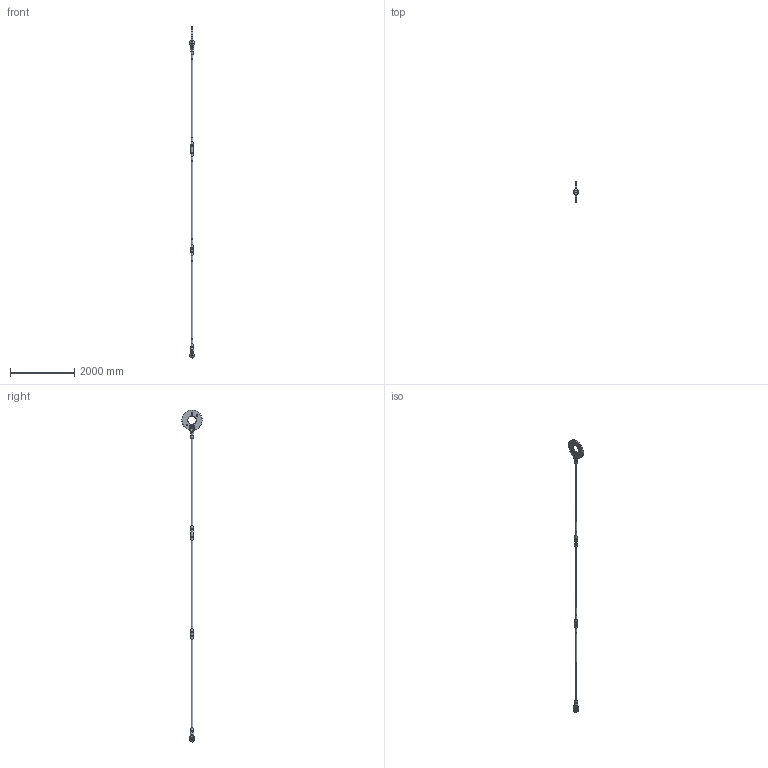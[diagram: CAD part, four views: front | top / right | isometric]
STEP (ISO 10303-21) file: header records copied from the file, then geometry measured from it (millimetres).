
FILE_DESCRIPTION(/* description */ (''),/* implementation_level */ '2;1');
FILE_NAME(/* name */ 'C:\Vault-WS\Anker\Werksnorm\Hochbau\ASDO-System\ASDO-S\System Komplett\Step\M 052.stp',/* time_stamp */ '2014-01-30T09:20:04+01:00',/* author */ ('ritgen'),/* organization */ (''),/* preprocessor_version */ 'ST-DEVELOPER v15.2',/* originating_system */ 'Autodesk Inventor 2014',/* authorisation */ '');
FILE_SCHEMA (('AUTOMOTIVE_DESIGN { 1 0 10303 214 3 1 1 }'));
Length unit declared in the file: millimetre
Products named in the file (11): ASDO-005761; ASDO-006551; ASDO-014323; DIN 7991 - M8x20 - 8.8; ASDO-013935; ASDO-001683; ASDO-001328; ASDO-001453; ASDO-013980; ASDO-014017; ASDO-013979
Bounding box: 130 x 634.4 x 10355.27 mm (x, y, z)
Volume: 36458945.7 mm3; surface area: 3101397.2 mm2
Topology: 20 solids, 20 shells, 473 faces, 1018 edges, 624 vertices
Faces by surface type: plane 158, bspline 144, cylinder 79, cone 46, torus 46
Full cylindrical faces by diameter (mm): 6.647 x2, 7 x18, 8 x2, 10 x2, 16 x2, 46.587 x11, 52 x5, 54 x8, 55 x1, 55.5 x6, 75.4 x6, 80 x6, 260 x1, 635 x1
Entity records: 14061 total; most frequent: CARTESIAN_POINT 9581, DIRECTION 818, ORIENTED_EDGE 802, EDGE_CURVE 401, AXIS2_PLACEMENT_3D 368, EDGE_LOOP 330, VERTEX_POINT 281, ADVANCED_FACE 222
